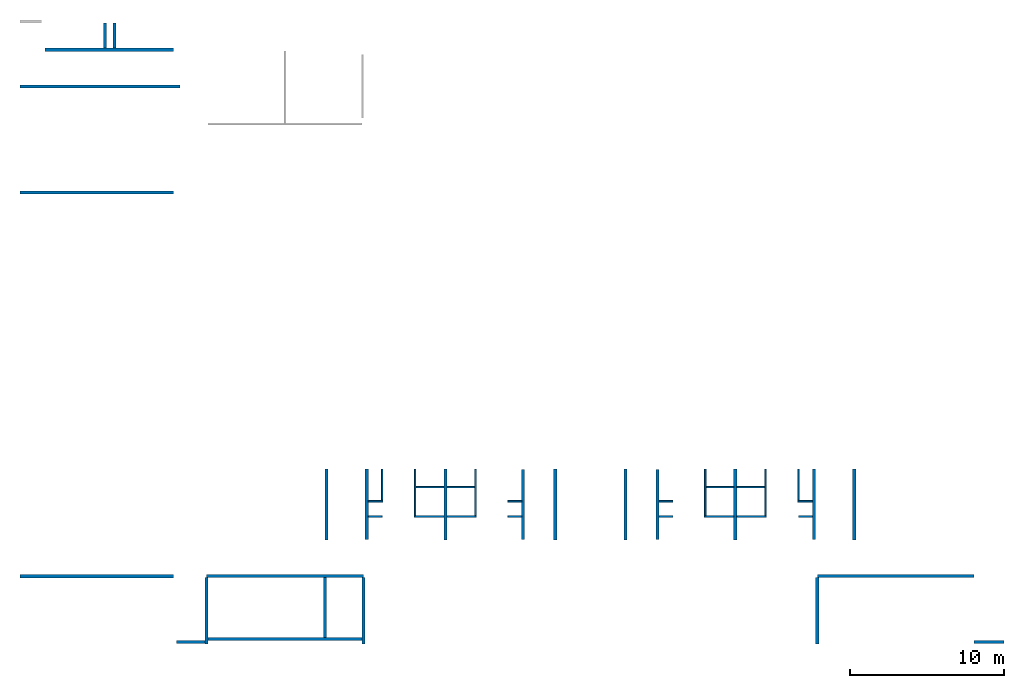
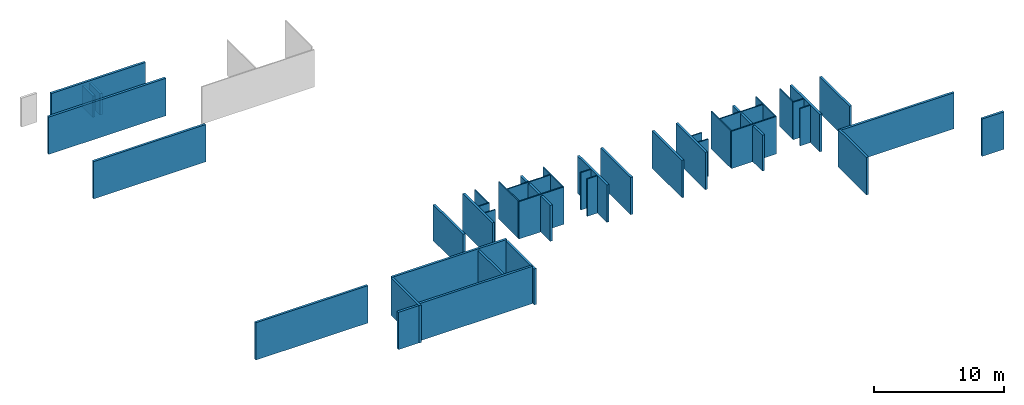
# One storey, part 1 of 2: 43 walls.
"""IFC2X3 building model written with IfcOpenShell, lengths in millimetres."""

from ifc_helpers import new_model, entity, si_unit, converted_unit, derived_unit, direction, frame, frame_2d, origin, place, context, subcontext, project, spatial, polyline, rectangle, extrude, clip, bounded_halfspace, material, layer, layer_set, layer_usage, type_object, element, save


model = new_model("IFC2X3")

# Units and contexts
model_context = context("Model", 3, precision=0.01, world=origin(), true_north=direction((6.12303176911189e-17, 1.0)))
body_context = subcontext(model_context, "Body", "Model", "MODEL_VIEW")
ifc_project = project(units=[si_unit("LENGTHUNIT", "METRE", prefix="MILLI"), si_unit("AREAUNIT", "SQUARE_METRE"), si_unit("VOLUMEUNIT", "CUBIC_METRE"), converted_unit("PLANEANGLEUNIT", "DEGREE", entity("IfcRatioMeasure", 0.0174532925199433), si_unit("PLANEANGLEUNIT", "RADIAN"), dimensions=[0, 0, 0, 0, 0, 0, 0]), si_unit("MASSUNIT", "GRAM", prefix="KILO"), derived_unit("MASSDENSITYUNIT", [(si_unit("MASSUNIT", "GRAM", prefix="KILO"), 1), (si_unit("LENGTHUNIT", "METRE"), -3)]), derived_unit("MOMENTOFINERTIAUNIT", [(si_unit("LENGTHUNIT", "METRE"), 4)]), si_unit("TIMEUNIT", "SECOND"), si_unit("FREQUENCYUNIT", "HERTZ"), si_unit("THERMODYNAMICTEMPERATUREUNIT", "DEGREE_CELSIUS"), derived_unit("THERMALTRANSMITTANCEUNIT", [(si_unit("MASSUNIT", "GRAM", prefix="KILO"), 1), (si_unit("THERMODYNAMICTEMPERATUREUNIT", "KELVIN"), -1), (si_unit("TIMEUNIT", "SECOND"), -3)]), derived_unit("VOLUMETRICFLOWRATEUNIT", [(si_unit("LENGTHUNIT", "METRE"), 3), (si_unit("TIMEUNIT", "SECOND"), -1)]), si_unit("ELECTRICCURRENTUNIT", "AMPERE"), si_unit("ELECTRICVOLTAGEUNIT", "VOLT"), si_unit("POWERUNIT", "WATT"), si_unit("FORCEUNIT", "NEWTON", prefix="KILO"), si_unit("ILLUMINANCEUNIT", "LUX"), si_unit("LUMINOUSFLUXUNIT", "LUMEN"), si_unit("LUMINOUSINTENSITYUNIT", "CANDELA"), derived_unit("USERDEFINED", [(si_unit("MASSUNIT", "GRAM", prefix="KILO"), -1), (si_unit("LENGTHUNIT", "METRE"), -2), (si_unit("TIMEUNIT", "SECOND"), 3), (si_unit("LUMINOUSFLUXUNIT", "LUMEN"), 1)]), derived_unit("LINEARVELOCITYUNIT", [(si_unit("LENGTHUNIT", "METRE"), 1), (si_unit("TIMEUNIT", "SECOND"), -1)]), si_unit("PRESSUREUNIT", "PASCAL"), derived_unit("USERDEFINED", [(si_unit("LENGTHUNIT", "METRE"), -2), (si_unit("MASSUNIT", "GRAM", prefix="KILO"), 1), (si_unit("TIMEUNIT", "SECOND"), -2)]), derived_unit("LINEARFORCEUNIT", [(si_unit("MASSUNIT", "GRAM", prefix="KILO"), 1), (si_unit("LENGTHUNIT", "METRE"), 1), (si_unit("TIMEUNIT", "SECOND"), -2), (si_unit("LENGTHUNIT", "METRE"), -1)]), derived_unit("PLANARFORCEUNIT", [(si_unit("MASSUNIT", "GRAM", prefix="KILO"), 1), (si_unit("LENGTHUNIT", "METRE"), 1), (si_unit("TIMEUNIT", "SECOND"), -2), (si_unit("LENGTHUNIT", "METRE"), -2)])], contexts=[model_context])

# Site, building, storey
site_placement = place(None, frame((10627.5135316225, 21939.0796949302, 0.0)))
site = spatial("IfcSite", under=ifc_project, at=site_placement, Name="Default", CompositionType="ELEMENT")
building_placement = place(site_placement, origin())
building = spatial("IfcBuilding", under=site, at=building_placement, CompositionType="ELEMENT")
storey_placement = place(building_placement, frame((0.0, 0.0, -3500.0)))
storey = spatial("IfcBuildingStorey", under=building, at=storey_placement, Name="R-1", CompositionType="ELEMENT", Elevation=-3500.0)

# Walls
ifc_material_1 = material(Name="Concrete - Cast-in-Place Concrete")
ifc_layer_1 = layer(ifc_material_1, 200.0)
ifc_layer_set_1 = layer_set([ifc_layer_1], Name="Basic Wall:Wall-Fnd_200interior")
ifc_layer_usage_1 = layer_usage(ifc_layer_set_1, "AXIS2", "POSITIVE", -100.0)
wall_type_1 = type_object("IfcWallType", Name="Basic Wall:Wall-Fnd_200interior", PredefinedType="STANDARD", material=ifc_layer_set_1)
wall_1_placement = place(storey_placement, frame((-8797.51353162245, 16595.9203050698, 0.0)))
element("IfcWallStandardCase", 1, at=wall_1_placement, inside=storey, type_object=wall_type_1, material=ifc_layer_usage_1, Name="Basic Wall:Wall-Fnd_200interior", ObjectType="Basic Wall:Wall-Fnd_200interior", context=body_context, shape_type="SweptSolid", body=[
    extrude(rectangle(XDim=8335.00000000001, YDim=200.000000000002, at=frame_2d((4167.5, -3.69482222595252e-13), x_axis=(-1.0, 0.0))), origin(), (0.0, 0.0, 1.0), 3700.0),
])
ifc_layer_usage_2 = layer_usage(ifc_layer_set_1, "AXIS2", "NEGATIVE", 100.0)
wall_2_placement = place(storey_placement, frame((1682.4864683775, -17519.0796949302, 0.0)))
element("IfcWallStandardCase", 2, at=wall_2_placement, inside=storey, type_object=wall_type_1, material=ifc_layer_usage_2, Name="Basic Wall:Wall-Fnd_200interior", ObjectType="Basic Wall:Wall-Fnd_200interior", context=body_context, shape_type="SweptSolid", body=[
    extrude(rectangle(XDim=10180.0, YDim=199.999999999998, at=frame_2d((5090.0, -3.12638803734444e-13), x_axis=(-1.0, 0.0))), origin(), (0.0, 0.0, 1.0), 3500.0),
])
ifc_layer_usage_3 = layer_usage(ifc_layer_set_1, "AXIS2", "NEGATIVE", 100.0)
wall_3_placement = place(storey_placement, frame((1682.48646837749, -21939.0796949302, 0.0), z_axis=(0.0, 0.0, 1.0), x_axis=(0.0, 1.0, 0.0)))
element("IfcWallStandardCase", 3, at=wall_3_placement, inside=storey, type_object=wall_type_1, material=ifc_layer_usage_3, Name="Basic Wall:Wall-Fnd_200interior", ObjectType="Basic Wall:Wall-Fnd_200interior", context=body_context, shape_type="SweptSolid", body=[
    extrude(rectangle(XDim=4320.0, YDim=200.0, at=frame_2d((2160.0, -2.1316282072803e-14), x_axis=(-1.0, 0.0))), origin(), (0.0, 0.0, 1.0), 3500.0),
])
ifc_layer_usage_4 = layer_usage(ifc_layer_set_1, "AXIS2", "POSITIVE", -100.0)
wall_4_placement = place(storey_placement, frame((11862.4864683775, -21939.0796949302, 0.0), z_axis=(0.0, 0.0, 1.0), x_axis=(0.0, 1.0, 0.0)))
element("IfcWallStandardCase", 4, at=wall_4_placement, inside=storey, type_object=wall_type_1, material=ifc_layer_usage_4, Name="Basic Wall:Wall-Fnd_200interior", ObjectType="Basic Wall:Wall-Fnd_200interior", context=body_context, shape_type="Clipping", body=[
    clip(extrude(rectangle(XDim=4320.0, YDim=199.999999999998, at=frame_2d((2160.0, -1.4210854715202e-13), x_axis=(-1.0, 0.0))), origin(), (0.0, 0.0, 1.0), 3370.0), bounded_halfspace(frame((30.0, -100.0, 3370.0), z_axis=(0.0, 0.0, -1.0), x_axis=(-1.0, 0.0, 0.0)), True, frame((30.0, -100.0, 3370.0)), polyline([(0.0, 0.0), (4290.0, 0.0), (4290.0, 15.0), (0.0, 15.0), (0.0, 0.0)]))),
])
ifc_layer_usage_5 = layer_usage(ifc_layer_set_1, "AXIS2", "POSITIVE", -100.0)
wall_5_placement = place(storey_placement, frame((-462.51353162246, 7340.92030506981, 0.0), z_axis=(0.0, 0.0, 1.0), x_axis=(-1.0, 0.0, 0.0)))
element("IfcWallStandardCase", 5, at=wall_5_placement, inside=storey, type_object=wall_type_1, material=ifc_layer_usage_5, Name="Basic Wall:Wall-Fnd_200interior", ObjectType="Basic Wall:Wall-Fnd_200interior", context=body_context, shape_type="SweptSolid", body=[
    extrude(rectangle(XDim=9950.00000000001, YDim=200.0, at=frame_2d((4975.0, 3.90798504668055e-13), x_axis=(-1.0, 0.0))), origin(), (0.0, 0.0, 1.0), 3500.0),
])
ifc_layer_usage_6 = layer_usage(ifc_layer_set_1, "AXIS2", "POSITIVE", -100.0)
wall_6_placement = place(storey_placement, frame((51472.4864683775, -17519.0796949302, 0.0), z_axis=(0.0, 0.0, 1.0), x_axis=(-1.0, 0.0, 0.0)))
element("IfcWallStandardCase", 6, at=wall_6_placement, inside=storey, type_object=wall_type_1, material=ifc_layer_usage_6, Name="Basic Wall:Wall-Fnd_200interior", ObjectType="Basic Wall:Wall-Fnd_200interior", context=body_context, shape_type="SweptSolid", body=[
    extrude(rectangle(XDim=10180.0, YDim=199.999999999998, at=frame_2d((5090.0, 3.12638803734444e-13), x_axis=(-1.0, 0.0))), origin(), (0.0, 0.0, 1.0), 3370.0),
])
ifc_layer_usage_7 = layer_usage(ifc_layer_set_1, "AXIS2", "NEGATIVE", 100.0)
wall_7_placement = place(storey_placement, frame((41292.4864683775, -21939.0796949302, 0.0), z_axis=(0.0, 0.0, 1.0), x_axis=(0.0, 1.0, 0.0)))
element("IfcWallStandardCase", 7, at=wall_7_placement, inside=storey, type_object=wall_type_1, material=ifc_layer_usage_7, Name="Basic Wall:Wall-Fnd_200interior", ObjectType="Basic Wall:Wall-Fnd_200interior", context=body_context, shape_type="SweptSolid", body=[
    extrude(rectangle(XDim=4319.99999999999, YDim=200.000000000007, at=frame_2d((2160.0, 1.22923893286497e-12), x_axis=(-1.0, 0.0))), origin(), (0.0, 0.0, 1.0), 3500.0),
])
ifc_material_2 = material(Name="Paint - White Lining")
ifc_layer_2 = layer(ifc_material_2, 3.0)
ifc_material_3 = material(Name="Concrete Masonry Units")
ifc_layer_3 = layer(ifc_material_3, 94.0)
ifc_layer_4 = layer(ifc_material_2, 3.0)
ifc_layer_set_2 = layer_set([ifc_layer_2, ifc_layer_3, ifc_layer_4], Name="Basic Wall:Wall-Int 100")
ifc_layer_usage_8 = layer_usage(ifc_layer_set_2, "AXIS2", "NEGATIVE", 50.0)
wall_type_2 = type_object("IfcWallType", Name="Basic Wall:Wall-Int 100", PredefinedType="STANDARD", material=ifc_layer_set_2)
wall_8_placement = place(storey_placement, frame((19176.7453859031, -13673.7735538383, 0.0), z_axis=(0.0, 0.0, 1.0), x_axis=(-1.0, 0.0, 0.0)))
element("IfcWallStandardCase", 8, at=wall_8_placement, inside=storey, type_object=wall_type_2, material=ifc_layer_usage_8, Name="Basic Wall:Wall-Int 100", ObjectType="Basic Wall:Wall-Int 100", context=body_context, shape_type="Clipping", body=[
    clip(extrude(rectangle(XDim=4020.0, YDim=99.9999999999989, at=frame_2d((2010.0, 3.90798504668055e-14), x_axis=(-1.0, 0.0))), origin(), (0.0, 0.0, 1.0), 3500.0), bounded_halfspace(frame((1894.25891752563, -50.0, 3370.0), z_axis=(0.0, 0.0, -1.0), x_axis=(0.0, 1.0, 0.0)), False, frame((1894.25891752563, -50.0, 3370.0), z_axis=(0.0, 0.0, -1.0), x_axis=(0.0, 1.0, 0.0)), polyline([(0.0, 0.0), (100.0, 0.0), (100.0, 200.0), (0.0, 200.0), (0.0, 0.0)]))),
])
ifc_layer_usage_9 = layer_usage(ifc_layer_set_2, "AXIS2", "NEGATIVE", 50.0)
wall_9_placement = place(storey_placement, frame((15206.7453859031, -13623.7735538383, 0.0), z_axis=(0.0, 0.0, 1.0), x_axis=(0.0, 1.0, 0.0)))
element("IfcWallStandardCase", 9, at=wall_9_placement, inside=storey, type_object=wall_type_2, material=ifc_layer_usage_9, Name="Basic Wall:Wall-Int 100", ObjectType="Basic Wall:Wall-Int 100", context=body_context, shape_type="SweptSolid", body=[
    extrude(rectangle(XDim=3019.69385890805, YDim=99.9999999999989, at=frame_2d((1509.84692945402, -4.86721773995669e-13), x_axis=(-1.0, 0.0))), origin(), (0.0, 0.0, 1.0), 3500.0),
])
ifc_layer_usage_10 = layer_usage(ifc_layer_set_2, "AXIS2", "NEGATIVE", 50.0)
wall_10_placement = place(storey_placement, frame((15256.7453859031, -11768.4117762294, 0.0)))
element("IfcWallStandardCase", 10, at=wall_10_placement, inside=storey, type_object=wall_type_2, material=ifc_layer_usage_10, Name="Basic Wall:Wall-Int 100", ObjectType="Basic Wall:Wall-Int 100", context=body_context, shape_type="Clipping", body=[
    clip(extrude(rectangle(XDim=3820.0, YDim=99.9999999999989, at=frame_2d((1910.0, -2.91322521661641e-13), x_axis=(-1.0, 0.0))), origin(), (0.0, 0.0, 1.0), 3500.0), bounded_halfspace(frame((2025.74108247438, 50.0, 3370.0), z_axis=(0.0, 0.0, -1.0), x_axis=(0.0, -1.0, 0.0)), False, frame((2025.74108247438, 50.0, 3370.0), z_axis=(0.0, 0.0, -1.0), x_axis=(0.0, -1.0, 0.0)), polyline([(0.0, 0.0), (100.0, 0.0), (100.0, 200.0), (0.0, 200.0), (0.0, 0.0)]))),
])
ifc_layer_usage_11 = layer_usage(ifc_layer_set_2, "AXIS2", "NEGATIVE", 50.0)
wall_11_placement = place(storey_placement, frame((19126.7453859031, -13623.7735538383, 0.0), z_axis=(0.0, 0.0, 1.0), x_axis=(0.0, 1.0, 0.0)))
element("IfcWallStandardCase", 11, at=wall_11_placement, inside=storey, type_object=wall_type_2, material=ifc_layer_usage_11, Name="Basic Wall:Wall-Int 100", ObjectType="Basic Wall:Wall-Int 100", context=body_context, shape_type="SweptSolid", body=[
    extrude(rectangle(XDim=3019.69385890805, YDim=99.9999999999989, at=frame_2d((1509.84692945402, -4.86721773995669e-13), x_axis=(-1.0, 0.0))), origin(), (0.0, 0.0, 1.0), 3500.0),
])
ifc_layer_usage_12 = layer_usage(ifc_layer_set_2, "AXIS2", "NEGATIVE", 50.0)
wall_12_placement = place(storey_placement, frame((12177.4864683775, -12684.0796949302, 0.0)))
element("IfcWallStandardCase", 12, at=wall_12_placement, inside=storey, type_object=wall_type_2, material=ifc_layer_usage_12, Name="Basic Wall:Wall-Int 100", ObjectType="Basic Wall:Wall-Int 100", context=body_context, shape_type="SweptSolid", body=[
    extrude(rectangle(XDim=949.999999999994, YDim=99.9999999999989, at=frame_2d((474.999999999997, 0.0), x_axis=(-1.0, 0.0))), origin(), (0.0, 0.0, 1.0), 3500.0),
])
ifc_layer_usage_13 = layer_usage(ifc_layer_set_2, "AXIS2", "NEGATIVE", 50.0)
wall_13_placement = place(storey_placement, frame((13077.4864683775, -10604.0796949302, 0.0), z_axis=(0.0, 0.0, 1.0), x_axis=(0.0, -1.0, 0.0)))
element("IfcWallStandardCase", 13, at=wall_13_placement, inside=storey, type_object=wall_type_2, material=ifc_layer_usage_13, Name="Basic Wall:Wall-Int 100", ObjectType="Basic Wall:Wall-Int 100", context=body_context, shape_type="SweptSolid", body=[
    extrude(rectangle(XDim=2030.0, YDim=99.9999999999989, at=frame_2d((1015.0, 2.38031816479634e-13), x_axis=(-1.0, 0.0))), origin(), (0.0, 0.0, 1.0), 3500.0),
])
ifc_layer_usage_14 = layer_usage(ifc_layer_set_2, "AXIS2", "NEGATIVE", 50.0)
wall_14_placement = place(storey_placement, frame((12177.4864683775, -13673.7735538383, 0.0)))
element("IfcWallStandardCase", 14, at=wall_14_placement, inside=storey, type_object=wall_type_2, material=ifc_layer_usage_14, Name="Basic Wall:Wall-Int 100", ObjectType="Basic Wall:Wall-Int 100", context=body_context, shape_type="SweptSolid", body=[
    extrude(rectangle(XDim=899.999999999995, YDim=99.9999999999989, at=frame_2d((449.999999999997, -1.10134124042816e-13), x_axis=(-1.0, 0.0))), origin(), (0.0, 0.0, 1.0), 3500.0),
])
ifc_layer_usage_15 = layer_usage(ifc_layer_set_2, "AXIS2", "NEGATIVE", 50.0)
wall_15_placement = place(storey_placement, frame((22114.9864683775, -12684.0796949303, 0.0), z_axis=(0.0, 0.0, 1.0), x_axis=(-1.0, 0.0, 0.0)))
element("IfcWallStandardCase", 15, at=wall_15_placement, inside=storey, type_object=wall_type_2, material=ifc_layer_usage_15, Name="Basic Wall:Wall-Int 100", ObjectType="Basic Wall:Wall-Int 100", context=body_context, shape_type="SweptSolid", body=[
    extrude(rectangle(XDim=893.778039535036, YDim=99.9999999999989, at=frame_2d((446.889019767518, -1.77635683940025e-14), x_axis=(-1.0, 0.0))), origin(), (0.0, 0.0, 1.0), 3500.0),
])
ifc_layer_usage_16 = layer_usage(ifc_layer_set_2, "AXIS2", "NEGATIVE", 50.0)
wall_16_placement = place(storey_placement, frame((22114.9864683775, -13673.7735538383, 0.0), z_axis=(0.0, 0.0, 1.0), x_axis=(-1.0, 0.0, 0.0)))
element("IfcWallStandardCase", 16, at=wall_16_placement, inside=storey, type_object=wall_type_2, material=ifc_layer_usage_16, Name="Basic Wall:Wall-Int 100", ObjectType="Basic Wall:Wall-Int 100", context=body_context, shape_type="SweptSolid", body=[
    extrude(rectangle(XDim=893.778039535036, YDim=99.9999999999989, at=frame_2d((446.889019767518, -1.77635683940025e-14), x_axis=(-1.0, 0.0))), origin(), (0.0, 0.0, 1.0), 3500.0),
])
ifc_layer_usage_17 = layer_usage(ifc_layer_set_2, "AXIS2", "POSITIVE", -50.0)
wall_17_placement = place(storey_placement, frame((33978.2275508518, -13673.7735538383, 0.0)))
element("IfcWallStandardCase", 17, at=wall_17_placement, inside=storey, type_object=wall_type_2, material=ifc_layer_usage_17, Name="Basic Wall:Wall-Int 100", ObjectType="Basic Wall:Wall-Int 100", context=body_context, shape_type="Clipping", body=[
    clip(extrude(rectangle(XDim=4020.0, YDim=99.9999999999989, at=frame_2d((2010.0, -3.5527136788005e-14), x_axis=(-1.0, 0.0))), origin(), (0.0, 0.0, 1.0), 3500.0), bounded_halfspace(frame((2094.25891752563, 50.0, 3370.0), z_axis=(0.0, 0.0, -1.0), x_axis=(0.0, -1.0, 0.0)), False, frame((2094.25891752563, 50.0, 3370.0), z_axis=(0.0, 0.0, -1.0), x_axis=(0.0, -1.0, 0.0)), polyline([(0.0, 0.0), (100.0, 0.0), (100.0, 200.0), (0.0, 200.0), (0.0, 0.0)]))),
])
ifc_layer_usage_18 = layer_usage(ifc_layer_set_2, "AXIS2", "POSITIVE", -50.0)
wall_18_placement = place(storey_placement, frame((37948.2275508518, -13623.7735538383, 0.0), z_axis=(0.0, 0.0, 1.0), x_axis=(0.0, 1.0, 0.0)))
element("IfcWallStandardCase", 18, at=wall_18_placement, inside=storey, type_object=wall_type_2, material=ifc_layer_usage_18, Name="Basic Wall:Wall-Int 100", ObjectType="Basic Wall:Wall-Int 100", context=body_context, shape_type="SweptSolid", body=[
    extrude(rectangle(XDim=3019.69385890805, YDim=100.000000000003, at=frame_2d((1509.84692945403, 4.86721773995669e-13), x_axis=(-1.0, 0.0))), origin(), (0.0, 0.0, 1.0), 3500.0),
])
ifc_layer_usage_19 = layer_usage(ifc_layer_set_2, "AXIS2", "POSITIVE", -50.0)
wall_19_placement = place(storey_placement, frame((37898.2275508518, -11768.4117762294, 0.0), z_axis=(0.0, 0.0, 1.0), x_axis=(-1.0, 0.0, 0.0)))
element("IfcWallStandardCase", 19, at=wall_19_placement, inside=storey, type_object=wall_type_2, material=ifc_layer_usage_19, Name="Basic Wall:Wall-Int 100", ObjectType="Basic Wall:Wall-Int 100", context=body_context, shape_type="Clipping", body=[
    clip(extrude(rectangle(XDim=3820.00000000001, YDim=99.9999999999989, at=frame_2d((1910.0, 2.91322521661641e-13), x_axis=(-1.0, 0.0))), origin(), (0.0, 0.0, 1.0), 3500.0), bounded_halfspace(frame((1825.74108247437, -50.0, 3370.0), z_axis=(0.0, 0.0, -1.0), x_axis=(0.0, 1.0, 0.0)), False, frame((1825.74108247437, -50.0, 3370.0), z_axis=(0.0, 0.0, -1.0), x_axis=(0.0, 1.0, 0.0)), polyline([(0.0, 0.0), (100.0, 0.0), (100.0, 200.0), (0.0, 200.0), (0.0, 0.0)]))),
])
ifc_layer_usage_20 = layer_usage(ifc_layer_set_2, "AXIS2", "POSITIVE", -50.0)
wall_20_placement = place(storey_placement, frame((34028.2275508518, -13623.7735538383, 0.0), z_axis=(0.0, 0.0, 1.0), x_axis=(0.0, 1.0, 0.0)))
element("IfcWallStandardCase", 20, at=wall_20_placement, inside=storey, type_object=wall_type_2, material=ifc_layer_usage_20, Name="Basic Wall:Wall-Int 100", ObjectType="Basic Wall:Wall-Int 100", context=body_context, shape_type="SweptSolid", body=[
    extrude(rectangle(XDim=3019.69385890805, YDim=100.000000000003, at=frame_2d((1509.84692945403, 4.86721773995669e-13), x_axis=(-1.0, 0.0))), origin(), (0.0, 0.0, 1.0), 3500.0),
])
ifc_layer_usage_21 = layer_usage(ifc_layer_set_2, "AXIS2", "POSITIVE", -50.0)
wall_21_placement = place(storey_placement, frame((40977.4864683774, -12684.0796949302, 0.0), z_axis=(0.0, 0.0, 1.0), x_axis=(-1.0, 0.0, 0.0)))
element("IfcWallStandardCase", 21, at=wall_21_placement, inside=storey, type_object=wall_type_2, material=ifc_layer_usage_21, Name="Basic Wall:Wall-Int 100", ObjectType="Basic Wall:Wall-Int 100", context=body_context, shape_type="SweptSolid", body=[
    extrude(rectangle(XDim=950.000000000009, YDim=99.9999999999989, at=frame_2d((475.000000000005, 0.0), x_axis=(-1.0, 0.0))), origin(), (0.0, 0.0, 1.0), 3500.0),
])
ifc_layer_usage_22 = layer_usage(ifc_layer_set_2, "AXIS2", "POSITIVE", -50.0)
wall_22_placement = place(storey_placement, frame((40077.4864683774, -10604.0796949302, 0.0), z_axis=(0.0, 0.0, 1.0), x_axis=(0.0, -1.0, 0.0)))
element("IfcWallStandardCase", 22, at=wall_22_placement, inside=storey, type_object=wall_type_2, material=ifc_layer_usage_22, Name="Basic Wall:Wall-Int 100", ObjectType="Basic Wall:Wall-Int 100", context=body_context, shape_type="SweptSolid", body=[
    extrude(rectangle(XDim=2030.0, YDim=99.9999999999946, at=frame_2d((1015.0, -2.40163444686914e-12), x_axis=(-1.0, 0.0))), origin(), (0.0, 0.0, 1.0), 3500.0),
])
ifc_layer_usage_23 = layer_usage(ifc_layer_set_2, "AXIS2", "POSITIVE", -50.0)
wall_23_placement = place(storey_placement, frame((40977.4864683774, -13673.7735538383, 0.0), z_axis=(0.0, 0.0, 1.0), x_axis=(-1.0, 0.0, 0.0)))
element("IfcWallStandardCase", 23, at=wall_23_placement, inside=storey, type_object=wall_type_2, material=ifc_layer_usage_23, Name="Basic Wall:Wall-Int 100", ObjectType="Basic Wall:Wall-Int 100", context=body_context, shape_type="SweptSolid", body=[
    extrude(rectangle(XDim=900.000000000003, YDim=99.9999999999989, at=frame_2d((450.000000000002, 1.10134124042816e-13), x_axis=(-1.0, 0.0))), origin(), (0.0, 0.0, 1.0), 3500.0),
])
ifc_layer_usage_24 = layer_usage(ifc_layer_set_2, "AXIS2", "POSITIVE", -50.0)
wall_24_placement = place(storey_placement, frame((31039.9864683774, -12684.0796949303, 0.0)))
element("IfcWallStandardCase", 24, at=wall_24_placement, inside=storey, type_object=wall_type_2, material=ifc_layer_usage_24, Name="Basic Wall:Wall-Int 100", ObjectType="Basic Wall:Wall-Int 100", context=body_context, shape_type="SweptSolid", body=[
    extrude(rectangle(XDim=893.778039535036, YDim=99.9999999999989, at=frame_2d((446.889019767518, 1.77635683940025e-14), x_axis=(-1.0, 0.0))), origin(), (0.0, 0.0, 1.0), 3500.0),
])
ifc_layer_usage_25 = layer_usage(ifc_layer_set_2, "AXIS2", "POSITIVE", -50.0)
wall_25_placement = place(storey_placement, frame((31039.9864683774, -13673.7735538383, 0.0)))
element("IfcWallStandardCase", 25, at=wall_25_placement, inside=storey, type_object=wall_type_2, material=ifc_layer_usage_25, Name="Basic Wall:Wall-Int 100", ObjectType="Basic Wall:Wall-Int 100", context=body_context, shape_type="SweptSolid", body=[
    extrude(rectangle(XDim=893.778039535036, YDim=99.9999999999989, at=frame_2d((446.889019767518, 1.77635683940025e-14), x_axis=(-1.0, 0.0))), origin(), (0.0, 0.0, 1.0), 3500.0),
])
ifc_material_4 = material(Name="Plaster")
ifc_layer_5 = layer(ifc_material_4, 12.5)
ifc_layer_6 = layer(ifc_material_3, 175.0)
ifc_layer_7 = layer(ifc_material_4, 12.5)
ifc_layer_set_3 = layer_set([ifc_layer_5, ifc_layer_6, ifc_layer_7], Name="Basic Wall:Wall-Int_200")
ifc_layer_usage_26 = layer_usage(ifc_layer_set_3, "AXIS2", "NEGATIVE", 100.0)
wall_type_3 = type_object("IfcWallType", Name="Basic Wall:Wall-Int_200", PredefinedType="STANDARD", material=ifc_layer_set_3)
wall_26_placement = place(storey_placement, frame((9462.4864683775, -15194.0796949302, 0.0), z_axis=(0.0, 0.0, 1.0), x_axis=(0.0, 1.0, 0.0)))
element("IfcWallStandardCase", 26, at=wall_26_placement, inside=storey, type_object=wall_type_3, material=ifc_layer_usage_26, Name="Basic Wall:Wall-Int_200", ObjectType="Basic Wall:Wall-Int_200", context=body_context, shape_type="Clipping", body=[
    clip(extrude(rectangle(XDim=4590.0, YDim=200.0, at=frame_2d((2295.0, -1.4210854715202e-13), x_axis=(-1.0, 0.0))), origin(), (0.0, 0.0, 1.0), 3370.0), bounded_halfspace(frame((0.0, -100.0, 3370.0), z_axis=(0.0, 0.0, -1.0), x_axis=(0.0, -1.0, 0.0)), True, frame((0.0, -100.0, 3370.0)), polyline([(0.0, 0.0), (4590.0, 0.0), (4590.0, 200.0), (0.0, 200.0), (0.0, 0.0)]))),
])
ifc_layer_usage_27 = layer_usage(ifc_layer_set_3, "AXIS2", "POSITIVE", -100.0)
wall_27_placement = place(storey_placement, frame((12077.4864683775, -15159.0796949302, 0.0), z_axis=(0.0, 0.0, 1.0), x_axis=(0.0, 1.0, 0.0)))
element("IfcWallStandardCase", 27, at=wall_27_placement, inside=storey, type_object=wall_type_3, material=ifc_layer_usage_27, Name="Basic Wall:Wall-Int_200", ObjectType="Basic Wall:Wall-Int_200", context=body_context, shape_type="SweptSolid", body=[
    extrude(rectangle(XDim=4555.0, YDim=199.999999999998, at=frame_2d((2277.5, -5.6843418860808e-14), x_axis=(-1.0, 0.0))), origin(), (0.0, 0.0, 1.0), 3500.0),
])
ifc_layer_usage_28 = layer_usage(ifc_layer_set_3, "AXIS2", "NEGATIVE", 100.0)
wall_28_placement = place(storey_placement, frame((17182.4864683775, -15194.0796949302, 0.0), z_axis=(0.0, 0.0, 1.0), x_axis=(0.0, 1.0, 0.0)))
element("IfcWallStandardCase", 28, at=wall_28_placement, inside=storey, type_object=wall_type_3, material=ifc_layer_usage_28, Name="Basic Wall:Wall-Int_200", ObjectType="Basic Wall:Wall-Int_200", context=body_context, shape_type="Clipping", body=[
    clip(extrude(rectangle(XDim=4590.0, YDim=199.999999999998, at=frame_2d((2295.0, -1.56319401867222e-13), x_axis=(-1.0, 0.0))), origin(), (0.0, 0.0, 1.0), 3370.0), bounded_halfspace(frame((0.0, -100.0, 3370.0), z_axis=(0.0, 0.0, -1.0), x_axis=(-1.0, 0.0, 0.0)), True, frame((0.0, -100.0, 3370.0)), polyline([(0.0, 0.0), (1470.30614109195, 0.0), (1570.30614109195, 0.0), (3375.66791870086, 0.0), (3475.66791870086, 0.0), (4555.0, 0.0), (4555.0, 200.0), (3475.66791870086, 200.0), (3375.66791870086, 200.0), (1570.30614109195, 200.0), (1470.30614109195, 200.0), (0.0, 200.0), (0.0, 0.0)]))),
])
ifc_layer_usage_29 = layer_usage(ifc_layer_set_3, "AXIS2", "NEGATIVE", 100.0)
wall_29_placement = place(storey_placement, frame((22214.9864683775, -15159.0796949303, 0.0), z_axis=(0.0, 0.0, 1.0), x_axis=(0.0, 1.0, 0.0)))
element("IfcWallStandardCase", 29, at=wall_29_placement, inside=storey, type_object=wall_type_3, material=ifc_layer_usage_29, Name="Basic Wall:Wall-Int_200", ObjectType="Basic Wall:Wall-Int_200", context=body_context, shape_type="SweptSolid", body=[
    extrude(rectangle(XDim=4520.0, YDim=199.999999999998, at=frame_2d((2260.0, 0.0), x_axis=(-1.0, 0.0))), origin(), (0.0, 0.0, 1.0), 3500.0),
])
ifc_layer_usage_30 = layer_usage(ifc_layer_set_3, "AXIS2", "NEGATIVE", 100.0)
wall_30_placement = place(storey_placement, frame((24299.9864683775, -10604.0796949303, 0.0), z_axis=(0.0, 0.0, 1.0), x_axis=(0.0, -1.0, 0.0)))
element("IfcWallStandardCase", 30, at=wall_30_placement, inside=storey, type_object=wall_type_3, material=ifc_layer_usage_30, Name="Basic Wall:Wall-Int_200", ObjectType="Basic Wall:Wall-Int_200", context=body_context, shape_type="SweptSolid", body=[
    extrude(rectangle(XDim=4590.0, YDim=199.999999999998, at=frame_2d((2295.0, 0.0), x_axis=(-1.0, 0.0))), origin(), (0.0, 0.0, 1.0), 3500.0),
])
ifc_layer_usage_31 = layer_usage(ifc_layer_set_3, "AXIS2", "NEGATIVE", 100.0)
wall_31_placement = place(storey_placement, frame((9374.9864683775, -17619.0796949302, 0.0), z_axis=(0.0, 0.0, 1.0), x_axis=(0.0, -1.0, 0.0)))
element("IfcWallStandardCase", 31, at=wall_31_placement, inside=storey, type_object=wall_type_3, material=ifc_layer_usage_31, Name="Basic Wall:Wall-Int_200", ObjectType="Basic Wall:Wall-Int_200", context=body_context, shape_type="Clipping", body=[
    clip(extrude(rectangle(XDim=3892.49999999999, YDim=200.0, at=frame_2d((1946.25, -1.20792265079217e-13), x_axis=(-1.0, 0.0))), origin(), (0.0, 0.0, 1.0), 3370.0), bounded_halfspace(frame((1.71896425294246, -100.0, 3370.0), z_axis=(0.0, 0.0, -1.0), x_axis=(1.0, 0.0, 0.0)), True, frame((1.71896425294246, -100.0, 3370.0)), polyline([(0.0, 0.0), (3890.78103574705, 0.0), (3890.78103574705, 200.0), (0.0, 200.0), (0.0, 0.0)]))),
])
ifc_layer_usage_32 = layer_usage(ifc_layer_set_3, "AXIS2", "POSITIVE", -100.0)
wall_32_placement = place(storey_placement, frame((11762.4864683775, -21611.5796949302, 0.0), z_axis=(0.0, 0.0, 1.0), x_axis=(-1.0, 0.0, 0.0)))
element("IfcWallStandardCase", 32, at=wall_32_placement, inside=storey, type_object=wall_type_3, material=ifc_layer_usage_32, Name="Basic Wall:Wall-Int_200", ObjectType="Basic Wall:Wall-Int_200", context=body_context, shape_type="SweptSolid", body=[
    extrude(rectangle(XDim=9980.0, YDim=199.999999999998, at=frame_2d((4990.0, -3.33955085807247e-13), x_axis=(-1.0, 0.0))), origin(), (0.0, 0.0, 1.0), 3500.0),
])
ifc_layer_usage_33 = layer_usage(ifc_layer_set_3, "AXIS2", "POSITIVE", -100.0)
wall_33_placement = place(storey_placement, frame((1582.48646837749, -21811.5796949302, 0.0), z_axis=(0.0, 0.0, 1.0), x_axis=(-1.0, 0.0, 0.0)))
element("IfcWallStandardCase", 33, at=wall_33_placement, inside=storey, type_object=wall_type_3, material=ifc_layer_usage_33, Name="Basic Wall:Wall-Int_200", ObjectType="Basic Wall:Wall-Int_200", context=body_context, shape_type="SweptSolid", body=[
    extrude(rectangle(XDim=1830.0, YDim=199.999999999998, at=frame_2d((915.0, 0.0), x_axis=(-1.0, 0.0))), origin(), (0.0, 0.0, 1.0), 3500.0),
])
ifc_layer_usage_34 = layer_usage(ifc_layer_set_3, "AXIS2", "NEGATIVE", 100.0)
wall_34_placement = place(storey_placement, frame((-247.513531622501, -17546.5796949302, 0.0), z_axis=(0.0, 0.0, 1.0), x_axis=(-1.0, 0.0, 0.0)))
element("IfcWallStandardCase", 34, at=wall_34_placement, inside=storey, type_object=wall_type_3, material=ifc_layer_usage_34, Name="Basic Wall:Wall-Int_200", ObjectType="Basic Wall:Wall-Int_200", context=body_context, shape_type="SweptSolid", body=[
    extrude(rectangle(XDim=9950.00000000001, YDim=200.0, at=frame_2d((5190.0, -3.90798504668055e-13), x_axis=(-1.0, 0.0))), origin(), (0.0, 0.0, 1.0), 3500.0),
])
ifc_layer_usage_35 = layer_usage(ifc_layer_set_3, "AXIS2", "POSITIVE", -100.0)
wall_35_placement = place(storey_placement, frame((43692.4864683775, -15194.0796949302, 0.0), z_axis=(0.0, 0.0, 1.0), x_axis=(0.0, 1.0, 0.0)))
element("IfcWallStandardCase", 35, at=wall_35_placement, inside=storey, type_object=wall_type_3, material=ifc_layer_usage_35, Name="Basic Wall:Wall-Int_200", ObjectType="Basic Wall:Wall-Int_200", context=body_context, shape_type="Clipping", body=[
    clip(extrude(rectangle(XDim=4590.00000000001, YDim=200.000000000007, at=frame_2d((2295.0, 6.89226453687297e-13), x_axis=(-1.0, 0.0))), origin(), (0.0, 0.0, 1.0), 3370.0), bounded_halfspace(frame((0.0, -100.0, 3370.0), z_axis=(0.0, 0.0, -1.0), x_axis=(0.0, -1.0, 0.0)), True, frame((0.0, -100.0, 3370.0)), polyline([(0.0, 0.0), (4590.0, 0.0), (4590.0, 200.0), (0.0, 200.0), (0.0, 0.0)]))),
])
ifc_layer_usage_36 = layer_usage(ifc_layer_set_3, "AXIS2", "NEGATIVE", 100.0)
wall_36_placement = place(storey_placement, frame((41077.4864683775, -15159.0796949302, 0.0), z_axis=(0.0, 0.0, 1.0), x_axis=(0.0, 1.0, 0.0)))
element("IfcWallStandardCase", 36, at=wall_36_placement, inside=storey, type_object=wall_type_3, material=ifc_layer_usage_36, Name="Basic Wall:Wall-Int_200", ObjectType="Basic Wall:Wall-Int_200", context=body_context, shape_type="SweptSolid", body=[
    extrude(rectangle(XDim=4555.0, YDim=200.000000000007, at=frame_2d((2277.5, 1.14397380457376e-12), x_axis=(-1.0, 0.0))), origin(), (0.0, 0.0, 1.0), 3500.0),
])
ifc_layer_usage_37 = layer_usage(ifc_layer_set_3, "AXIS2", "POSITIVE", -100.0)
wall_37_placement = place(storey_placement, frame((35972.4864683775, -15194.0796949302, 0.0), z_axis=(0.0, 0.0, 1.0), x_axis=(0.0, 1.0, 0.0)))
element("IfcWallStandardCase", 37, at=wall_37_placement, inside=storey, type_object=wall_type_3, material=ifc_layer_usage_37, Name="Basic Wall:Wall-Int_200", ObjectType="Basic Wall:Wall-Int_200", context=body_context, shape_type="Clipping", body=[
    clip(extrude(rectangle(XDim=4590.0, YDim=199.999999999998, at=frame_2d((2295.0, 1.63424829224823e-13), x_axis=(-1.0, 0.0))), origin(), (0.0, 0.0, 1.0), 3370.0), bounded_halfspace(frame((0.0, -100.0, 3370.0), z_axis=(0.0, 0.0, -1.0), x_axis=(-1.0, 0.0, 0.0)), True, frame((0.0, -100.0, 3370.0)), polyline([(0.0, 0.0), (1470.30614109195, 0.0), (1570.30614109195, 0.0), (3375.66791870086, 0.0), (3475.66791870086, 0.0), (4555.0, 0.0), (4555.0, 200.0), (3475.66791870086, 200.0), (3375.66791870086, 200.0), (1570.30614109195, 200.0), (1470.30614109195, 200.0), (0.0, 200.0), (0.0, 0.0)]))),
])
ifc_layer_usage_38 = layer_usage(ifc_layer_set_3, "AXIS2", "POSITIVE", -100.0)
wall_38_placement = place(storey_placement, frame((30939.9864683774, -15159.0796949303, 0.0), z_axis=(0.0, 0.0, 1.0), x_axis=(0.0, 1.0, 0.0)))
element("IfcWallStandardCase", 38, at=wall_38_placement, inside=storey, type_object=wall_type_3, material=ifc_layer_usage_38, Name="Basic Wall:Wall-Int_200", ObjectType="Basic Wall:Wall-Int_200", context=body_context, shape_type="SweptSolid", body=[
    extrude(rectangle(XDim=4520.0, YDim=199.999999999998, at=frame_2d((2260.0, 0.0), x_axis=(-1.0, 0.0))), origin(), (0.0, 0.0, 1.0), 3500.0),
])
ifc_layer_usage_39 = layer_usage(ifc_layer_set_3, "AXIS2", "POSITIVE", -100.0)
wall_39_placement = place(storey_placement, frame((28854.9864683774, -10604.0796949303, 0.0), z_axis=(0.0, 0.0, 1.0), x_axis=(0.0, -1.0, 0.0)))
element("IfcWallStandardCase", 39, at=wall_39_placement, inside=storey, type_object=wall_type_3, material=ifc_layer_usage_39, Name="Basic Wall:Wall-Int_200", ObjectType="Basic Wall:Wall-Int_200", context=body_context, shape_type="SweptSolid", body=[
    extrude(rectangle(XDim=4590.0, YDim=199.999999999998, at=frame_2d((2295.0, 0.0), x_axis=(-1.0, 0.0))), origin(), (0.0, 0.0, 1.0), 3500.0),
])
ifc_layer_usage_40 = layer_usage(ifc_layer_set_3, "AXIS2", "NEGATIVE", 100.0)
wall_40_placement = place(storey_placement, frame((51472.4864683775, -21811.5796949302, 0.0)))
element("IfcWallStandardCase", 40, at=wall_40_placement, inside=storey, type_object=wall_type_3, material=ifc_layer_usage_40, Name="Basic Wall:Wall-Int_200", ObjectType="Basic Wall:Wall-Int_200", context=body_context, shape_type="SweptSolid", body=[
    extrude(rectangle(XDim=1930.0, YDim=199.999999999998, at=frame_2d((965.000000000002, -1.13686837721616e-13), x_axis=(-1.0, 0.0))), origin(), (0.0, 0.0, 1.0), 3500.0),
])
ifc_layer_8 = layer(ifc_material_1, 200.0)
ifc_layer_set_4 = layer_set([ifc_layer_8], Name="Basic Wall:Mur S/SOL 20")
ifc_layer_usage_41 = layer_usage(ifc_layer_set_4, "AXIS2", "NEGATIVE", 100.0)
wall_type_4 = type_object("IfcWallType", Name="Basic Wall:Mur S/SOL 20", PredefinedType="STANDARD", material=ifc_layer_set_4)
wall_41_placement = place(storey_placement, frame((-4912.51353162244, 18345.9203050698, 0.0), z_axis=(0.0, 0.0, 1.0), x_axis=(0.0, -1.0, 0.0)))
element("IfcWallStandardCase", 41, at=wall_41_placement, inside=storey, type_object=wall_type_4, material=ifc_layer_usage_41, Name="Basic Wall:Mur S/SOL 20", ObjectType="Basic Wall:Mur S/SOL 20", context=body_context, shape_type="SweptSolid", body=[
    extrude(rectangle(XDim=1650.0, YDim=200.0, at=frame_2d((825.000000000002, 9.9475983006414e-14), x_axis=(-1.0, 0.0))), origin(), (0.0, 0.0, 1.0), 2000.0),
])
ifc_layer_usage_42 = layer_usage(ifc_layer_set_4, "AXIS2", "NEGATIVE", 100.0)
wall_42_placement = place(storey_placement, frame((-4282.51353162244, 18345.9203050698, 0.0), z_axis=(0.0, 0.0, 1.0), x_axis=(0.0, -1.0, 0.0)))
element("IfcWallStandardCase", 42, at=wall_42_placement, inside=storey, type_object=wall_type_4, material=ifc_layer_usage_42, Name="Basic Wall:Mur S/SOL 20", ObjectType="Basic Wall:Mur S/SOL 20", context=body_context, shape_type="SweptSolid", body=[
    extrude(rectangle(XDim=1650.0, YDim=200.0, at=frame_2d((825.000000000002, -1.77635683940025e-13), x_axis=(-1.0, 0.0))), origin(), (0.0, 0.0, 1.0), 2000.0),
])
ifc_layer_9 = layer(ifc_material_1, 210.0)
ifc_layer_set_5 = layer_set([ifc_layer_9], Name="Basic Wall:Mur S/SOL 21")
ifc_layer_usage_43 = layer_usage(ifc_layer_set_5, "AXIS2", "NEGATIVE", 105.0)
wall_type_5 = type_object("IfcWallType", Name="Basic Wall:Mur S/SOL 21", PredefinedType="STANDARD", material=ifc_layer_set_5)
wall_43_placement = place(storey_placement, frame((-10412.5135316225, 14220.9203050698, 0.0)))
element("IfcWallStandardCase", 43, at=wall_43_placement, inside=storey, type_object=wall_type_5, material=ifc_layer_usage_43, Name="Basic Wall:Mur S/SOL 21", ObjectType="Basic Wall:Mur S/SOL 21", context=body_context, shape_type="SweptSolid", body=[
    extrude(rectangle(XDim=10380.0, YDim=210.0, at=frame_2d((5190.0, -3.83693077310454e-13), x_axis=(-1.0, 0.0))), origin(), (0.0, 0.0, 1.0), 3500.0),
])

save(model, "model.ifc")
